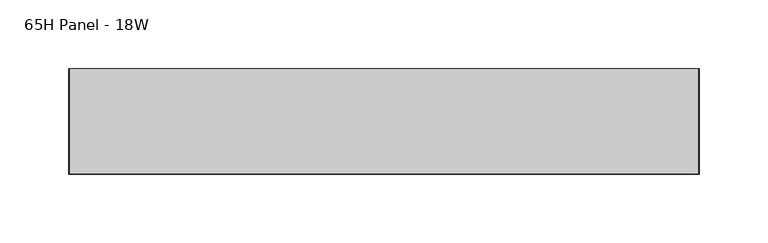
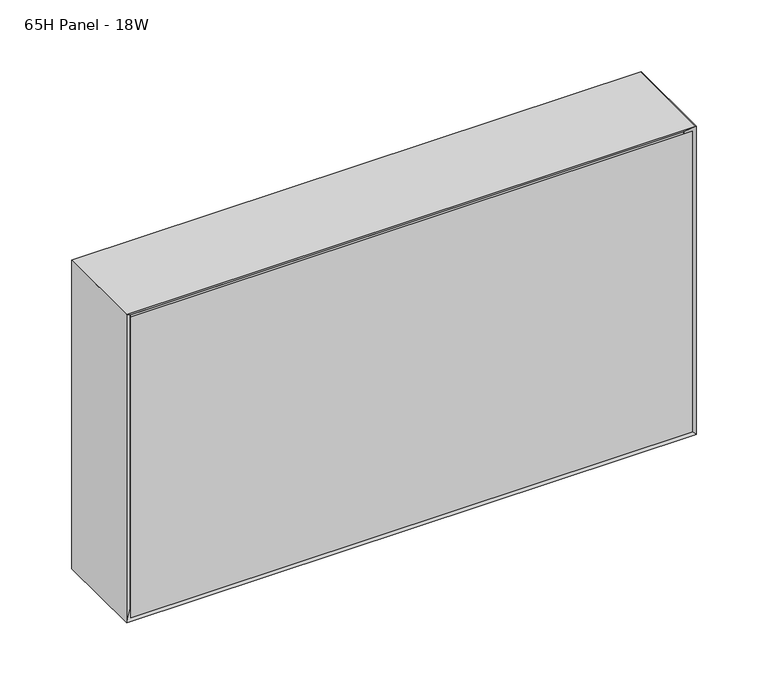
"""IFC4 building model written with IfcOpenShell, lengths in millimetres: furniture geometry, Steelcase - Montage - Frame - 10H - Enhanced Standard - Single Stack-On : 65H Panel - 18W."""

from ifc_helpers import new_model, si_unit, frame, origin, place, context, project, spatial, polyline, outline, extrude, faceted_brep, source, transform, mapped, element, save


def furniture_65h_panel_18w_b7cf43b6(model_context):
    return source(origin(), model_context, "Body", "SolidModel", [
        faceted_brep([(447.6750027, 31.7500194, 1912.9502415), (9.5250028, 31.7500194, 1912.9502415), (9.5250028, 31.7500194, 1670.05), (447.6750027, 31.7500194, 1670.05), (454.025, 38.1000194, 1919.3002415), (454.025, 38.1000194, 1663.7), (3.175, 38.1000194, 1663.7), (3.175, 38.1000194, 1919.3002415)], [[[0, 1, 2, 3]], [[4, 5, 6, 7]], [[4, 0, 3, 5]], [[5, 3, 2, 6]], [[6, 2, 1, 7]], [[7, 1, 0, 4]]]),
        faceted_brep([(447.6750027, -31.7500194, 1912.9502415), (447.6750027, -31.7500194, 1670.05), (9.5250028, -31.7500194, 1670.05), (9.5250028, -31.7500194, 1912.9502415), (454.025, -38.1000194, 1919.3002415), (3.175, -38.1000194, 1919.3002415), (3.175, -38.1000194, 1663.7), (454.025, -38.1000194, 1663.7)], [[[0, 1, 2, 3]], [[4, 5, 6, 7]], [[4, 7, 1, 0]], [[7, 6, 2, 1]], [[6, 5, 3, 2]], [[5, 4, 0, 3]]]),
        faceted_brep([(457.2, -38.1000015, 1660.525), (457.2, 38.1000015, 1660.525), (457.2, 38.1000015, 1922.4752415), (457.2, -38.1000106, 1922.4752414), (0.0, 38.1000015, 1660.525), (0.0, -38.1000015, 1660.525), (0.0, -38.1000015, 1922.4752415), (0.0, 38.1000015, 1922.4752415), (6.3500484, 31.749953, 1666.8750484), (450.8499879, 31.749953, 1666.8750484), (6.35, -31.749953, 1666.8750484), (450.8499879, -31.749953, 1666.8750484), (6.3500169, 31.7499846, 1916.1252245), (6.3500012, -31.7500003, 1916.125193), (450.8499879, -31.7499973, 1916.125193), (450.8499879, 31.7499885, 1916.1252293)], [[[0, 1, 2, 3]], [[4, 5, 6, 7]], [[1, 0, 5, 4]], [[1, 4, 8, 9]], [[9, 8, 10, 11]], [[5, 0, 11, 10]], [[4, 7, 12, 8]], [[6, 5, 10, 13]], [[10, 8, 12, 13]], [[9, 11, 14, 15]], [[0, 3, 14, 11]], [[2, 1, 9, 15]], [[3, 2, 15, 14]], [[7, 6, 13, 12]]]),
        faceted_brep([(457.2, -38.1000015, 1922.4752415), (0.0, -38.1000015, 1922.4752415), (6.3500484, -31.749953, 1916.125193), (450.8499516, -31.749953, 1916.125193), (6.3500484, 31.749953, 1916.125193), (450.8499516, 31.749953, 1916.125193), (0.0, 38.1000015, 1922.4752415), (457.2, 38.1000015, 1922.4752415)], [[[0, 1, 2, 3]], [[3, 2, 4, 5]], [[6, 7, 5, 4]], [[1, 0, 7, 6]], [[2, 1, 6, 4]], [[0, 3, 5, 7]]]),
        extrude(outline(polyline([(450.8499879, 31.7500016), (450.8499879, -31.7499985), (6.35, -31.7499985), (6.35, 31.7500016), (450.8499879, 31.7500016)])), frame((0.0, 0.0, 1666.8702145), z_axis=(0.0, 0.0, 1.0), x_axis=(1.0, 0.0, 0.0)), (0.0, 0.0, 1.0), 249.2549785),
    ])


if __name__ == "__main__":
    model = new_model("IFC4")
    model_context = context("Model", 3, world=origin())
    ifc_project = project(units=[si_unit("LENGTHUNIT", "METRE", prefix="MILLI")], contexts=[model_context])
    site = spatial("IfcSite", under=ifc_project)
    building = spatial("IfcBuilding", under=site)
    placement = place(None, origin())
    furniture_65h_panel_18w_shape = furniture_65h_panel_18w_b7cf43b6(model_context)
    element("IfcFurniture", 1, ObjectType="Steelcase - Montage - Frame - 10H - Enhanced Standard - Single Stack-On : 65H Panel - 18W", at=placement, inside=building, context=model_context, shape_type="MappedRepresentation", body=[
        mapped(furniture_65h_panel_18w_shape, transform((0.0, 0.0, 0.0), x_axis=(1.0, 0.0, 0.0), y_axis=(0.0, 1.0, 0.0), z_axis=(0.0, 0.0, 1.0))),
    ])
    save(model, "model.ifc")
